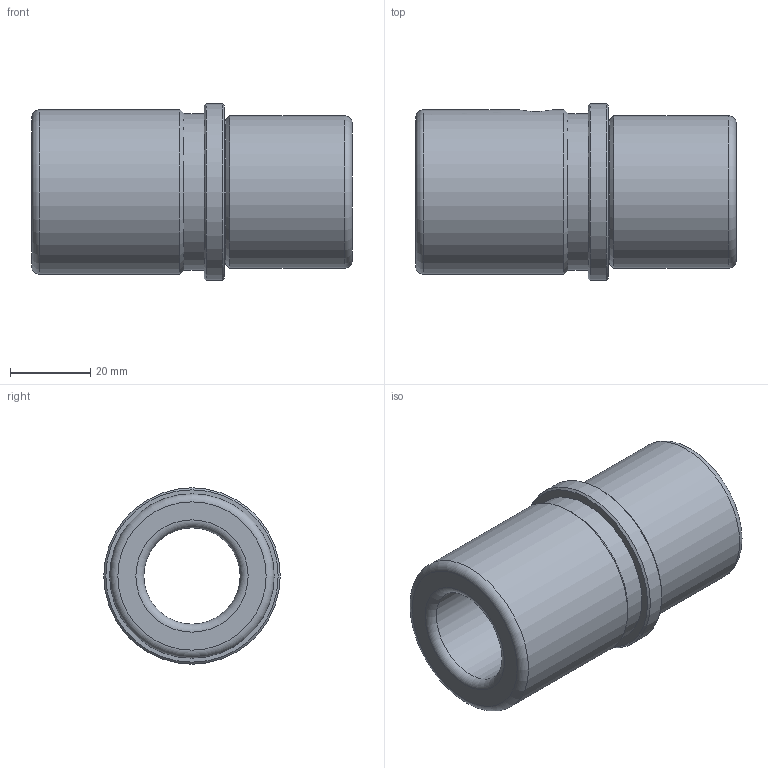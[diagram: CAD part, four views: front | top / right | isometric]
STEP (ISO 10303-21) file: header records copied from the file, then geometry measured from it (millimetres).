
FILE_DESCRIPTION( ( 'STEP AP214' ), '1' );
FILE_NAME( 'p:/temp/worker_872/temp/exporttempdir_5012_367_iclgV/format_2/WZ - 4051 24 x 80.stp', '2020-12-03T19:50:48', ( 'License CC BY-ND 4.0' ), ( 'CADENAS' ), ' ', 'PARTsolutions', ' ' );
FILE_SCHEMA( ( 'AUTOMOTIVE_DESIGN { 1 0 10303 214 1 1 1 1 }' ) );
Length unit declared in the file: millimetre
Products named in the file (1): _WZ - 4051 24 x 80
Bounding box: 80 x 44 x 44 mm (x, y, z)
Volume: 62598.3 mm3; surface area: 18377.2 mm2
Topology: 1 solids, 1 shells, 21 faces, 38 edges, 22 vertices
Faces by surface type: cylinder 7, cone 5, plane 5, torus 4
Full cylindrical faces by diameter (mm): 8.376 x1, 24 x1, 36 x1, 38 x1, 39 x1, 41 x1, 44 x1
Entity records: 750 total; most frequent: CARTESIAN_POINT 196, DIRECTION 84, EDGE_LOOP 44, ORIENTED_EDGE 44, AXIS2_PLACEMENT_3D 42, FACE_OUTER_BOUND 32, EDGE_CURVE 22, VERTEX_POINT 22
